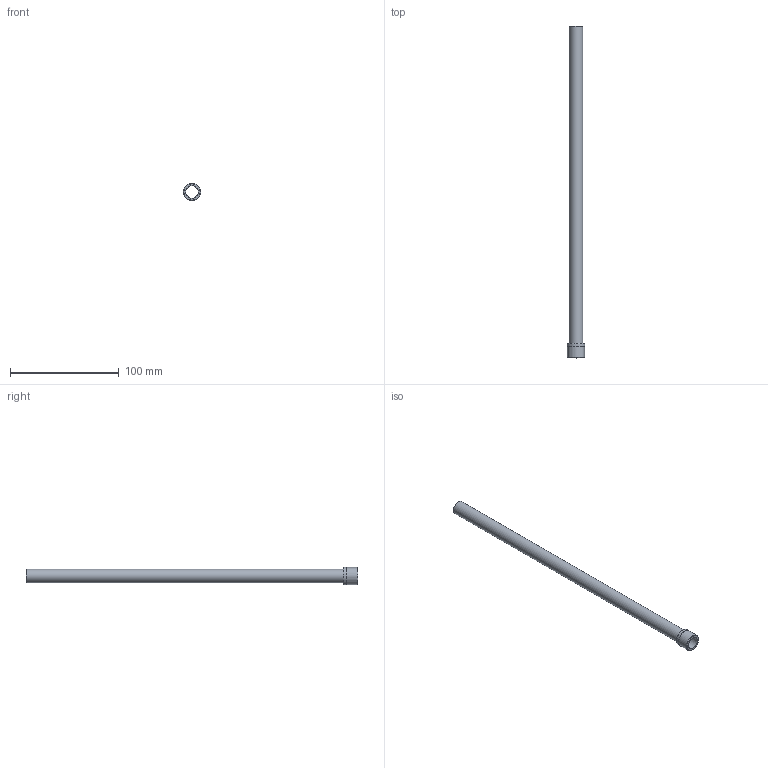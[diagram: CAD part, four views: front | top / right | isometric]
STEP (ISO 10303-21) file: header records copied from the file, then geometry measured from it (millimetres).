
FILE_DESCRIPTION(/* description */ (''),/* implementation_level */ '2;1');
FILE_NAME(/* name */ 'C:/Users/drich/Desktop/JHF500T-12 v1.step',/* time_stamp */ '2020-01-02T19:59:46-06:00',/* author */ (''),/* organization */ (''),/* preprocessor_version */ 'ST-DEVELOPER v18',/* originating_system */ 'Autodesk Translation Framework v8.12.0.6',/* authorisation */ '');
FILE_SCHEMA (('AUTOMOTIVE_DESIGN { 1 0 10303 214 3 1 1 }'));
Length unit declared in the file: inch
Products named in the file (1): JHF500T-12
Bounding box: 15.93 x 304.8 x 15.93 mm (x, y, z)
Volume: 9093.8 mm3; surface area: 23270.9 mm2
Topology: 1 solids, 1 shells, 10 faces, 24 edges, 18 vertices
Faces by surface type: cylinder 4, plane 4, cone 1, torus 1
Full cylindrical faces by diameter (mm): 11.278 x1, 12.7 x1, 15.763 x1, 15.926 x1
Entity records: 354 total; most frequent: DIRECTION 65, CARTESIAN_POINT 53, ORIENTED_EDGE 48, AXIS2_PLACEMENT_3D 30, EDGE_CURVE 24, CIRCLE 19, VERTEX_POINT 18, EDGE_LOOP 14
